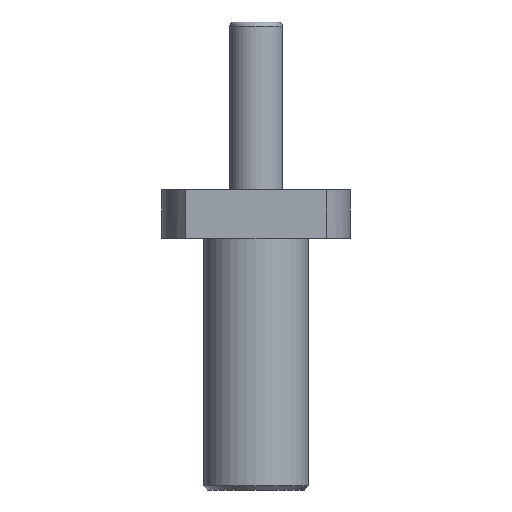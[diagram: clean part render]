
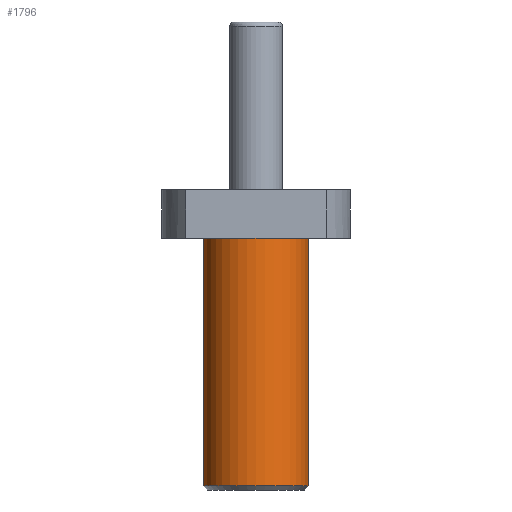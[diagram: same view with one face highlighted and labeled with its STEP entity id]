
A CAD part, front view. The second image highlights one B-rep face of the part: STEP entity #1796.
In plain terms, the highlighted cylindrical face has radius 25 mm (diameter 50 mm), a full revolution.
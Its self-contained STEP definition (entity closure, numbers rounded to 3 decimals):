
#1796 = ADVANCED_FACE('',(#1797),#1824,.T.);
#1797 = FACE_BOUND('',#1798,.F.);
#1798 = EDGE_LOOP('',(#1799,#1809,#1816,#1817));
#1799 = ORIENTED_EDGE('',*,*,#1800,.T.);
#1800 = EDGE_CURVE('',#1801,#1803,#1805,.T.);
#1801 = VERTEX_POINT('',#1802);
#1802 = CARTESIAN_POINT('',(25.,0.,-36.));
#1803 = VERTEX_POINT('',#1804);
#1804 = CARTESIAN_POINT('',(25.,0.,82.));
#1805 = LINE('',#1806,#1807);
#1806 = CARTESIAN_POINT('',(25.,0.,-38.));
#1807 = VECTOR('',#1808,1.);
#1808 = DIRECTION('',(0.,0.,1.));
#1809 = ORIENTED_EDGE('',*,*,#1810,.T.);
#1810 = EDGE_CURVE('',#1803,#1803,#1811,.T.);
#1811 = CIRCLE('',#1812,25.);
#1812 = AXIS2_PLACEMENT_3D('',#1813,#1814,#1815);
#1813 = CARTESIAN_POINT('',(0.,0.,82.));
#1814 = DIRECTION('',(0.,0.,1.));
#1815 = DIRECTION('',(1.,0.,0.));
#1816 = ORIENTED_EDGE('',*,*,#1800,.F.);
#1817 = ORIENTED_EDGE('',*,*,#1818,.F.);
#1818 = EDGE_CURVE('',#1801,#1801,#1819,.T.);
#1819 = CIRCLE('',#1820,25.);
#1820 = AXIS2_PLACEMENT_3D('',#1821,#1822,#1823);
#1821 = CARTESIAN_POINT('',(0.,0.,-36.));
#1822 = DIRECTION('',(0.,0.,1.));
#1823 = DIRECTION('',(1.,0.,-0.));
#1824 = CYLINDRICAL_SURFACE('',#1825,25.);
#1825 = AXIS2_PLACEMENT_3D('',#1826,#1827,#1828);
#1826 = CARTESIAN_POINT('',(0.,0.,-38.));
#1827 = DIRECTION('',(-0.,-0.,-1.));
#1828 = DIRECTION('',(1.,0.,0.));
